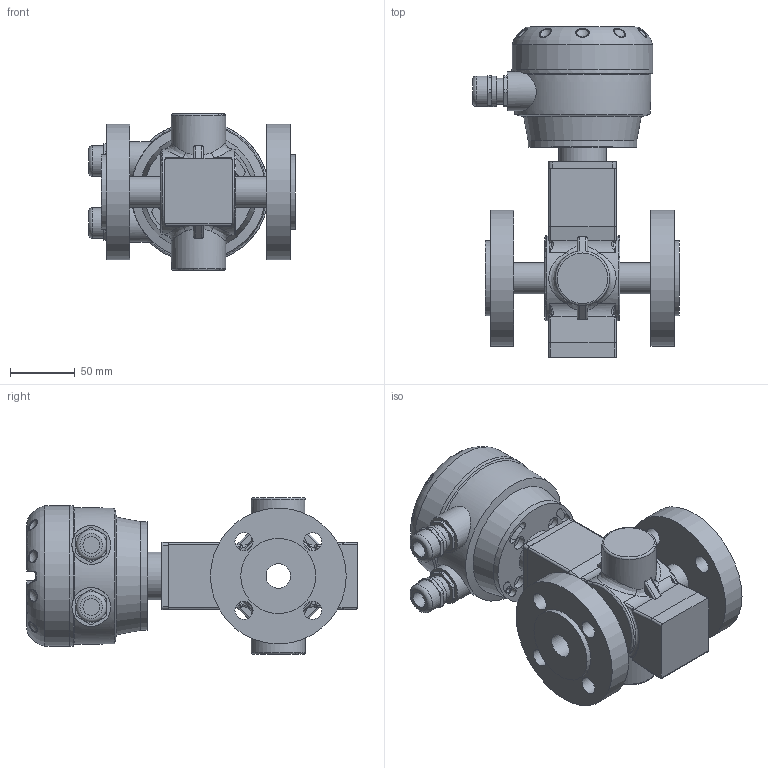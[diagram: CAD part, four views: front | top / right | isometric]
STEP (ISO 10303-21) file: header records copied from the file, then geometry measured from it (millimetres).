
FILE_DESCRIPTION (( 'STEP AP203' ), '1' );
FILE_NAME ('KROHNE_OPTIFLUX_4000W_DIN2513_DN20_PN40.STEP', '2011-04-26T11:31:42', ( '' ), ( '' ), 'SwSTEP 2.0', 'SolidWorks 2010', '' );
FILE_SCHEMA (( 'CONFIG_CONTROL_DESIGN' ));
Length unit declared in the file: millimetre
Products named in the file (1): KROHNE_OPTIFLUX_4000W_DIN2513_DN20_PN40
Bounding box: 160 x 255.49 x 121 mm (x, y, z)
Volume: 1540901.4 mm3; surface area: 216170.5 mm2
Topology: 14 solids, 14 shells, 455 faces, 1123 edges, 714 vertices
Faces by surface type: plane 192, cylinder 131, bspline 81, torus 30, sphere 13, cone 8
Full cylindrical faces by diameter (mm): 4 x4, 6.6 x4, 10.5 x4, 13 x2, 14 x8, 18.9 x1, 20 x2, 23.5 x4, 23.9 x2, 29.5 x1, 30 x2, 32.6 x2, 35 x1, 37 x1, 38 x1, 42 x2, 58 x2, 66 x2, 84 x2, 105 x2, 109 x1
Entity records: 19469 total; most frequent: CARTESIAN_POINT 9617, ORIENTED_EDGE 2024, DIRECTION 1816, EDGE_CURVE 1012, VERTEX_POINT 690, AXIS2_PLACEMENT_3D 669, EDGE_LOOP 614, FACE_OUTER_BOUND 526
